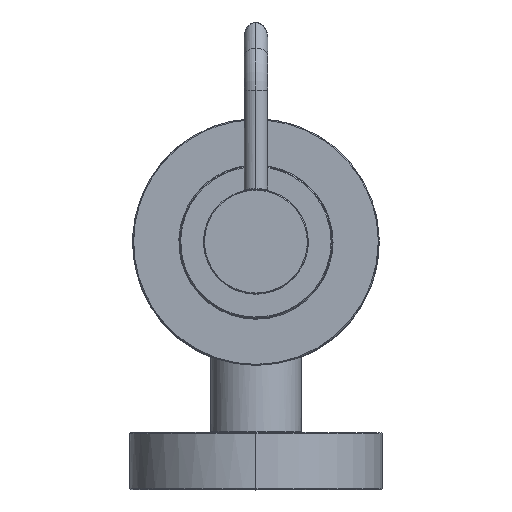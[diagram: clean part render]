
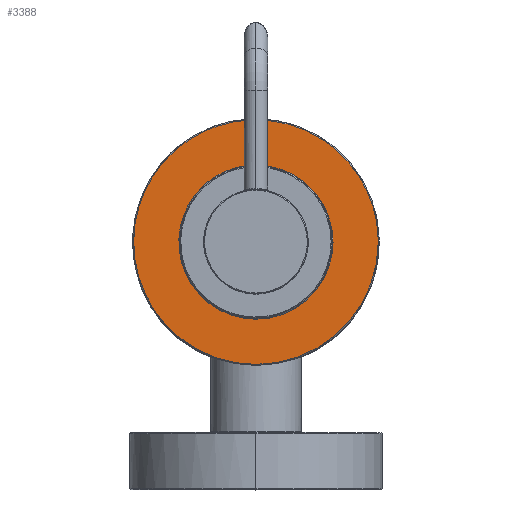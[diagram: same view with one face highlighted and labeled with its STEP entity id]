
A CAD part, top view. The second image highlights one B-rep face of the part: STEP entity #3388.
In plain terms, the highlighted planar face has unit normal (0, 0, 1).
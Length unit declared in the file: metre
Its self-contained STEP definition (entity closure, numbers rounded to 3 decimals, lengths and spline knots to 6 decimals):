
#212=EDGE_CURVE('',#213,#216,#218,.F.);
#213=VERTEX_POINT('',#214);
#214=CARTESIAN_POINT('',(0.0257,0.052,0.028));
#215=CARTESIAN_POINT('',(0.0,0.0263,0.028));
#216=VERTEX_POINT('',#217);
#217=CARTESIAN_POINT('',(0.0,0.0263,0.028));
#218=(B_SPLINE_CURVE(3,(#215,#219,#220,#221,#222,#223,#224),.UNSPECIFIED.,
  .F.,.U.)B_SPLINE_CURVE_WITH_KNOTS((4,3,4),(0.0,0.5,1.0),.UNSPECIFIED.)BOUNDED_CURVE(
  )CURVE()GEOMETRIC_REPRESENTATION_ITEM()RATIONAL_B_SPLINE_CURVE((1.0,
  0.588,0.588,1.0,0.588,
  0.588,1.0))REPRESENTATION_ITEM(''));
#219=CARTESIAN_POINT('',(-0.026899,0.0263,0.028));
#220=CARTESIAN_POINT('',(-0.037193,0.051152,0.028));
#221=CARTESIAN_POINT('',(-0.018173,0.070173,0.028));
#222=CARTESIAN_POINT('',(0.000848,0.089193,0.028)
  );
#223=CARTESIAN_POINT('',(0.0257,0.078899,0.028));
#224=CARTESIAN_POINT('',(0.0257,0.052,0.028));
#3388=ADVANCED_FACE('',(#3394,#3414),#3389,.F.);
#3389=PLANE('',#3390);
#3390=AXIS2_PLACEMENT_3D('',#3391,#3392,#3393);
#3391=CARTESIAN_POINT('',(0.0,0.052,0.028));
#3392=DIRECTION('',(0.0,0.0,-1.0));
#3393=DIRECTION('',(0.,1.0,0.0));
#3394=FACE_BOUND('',#3395,.T.);
#3395=EDGE_LOOP('',(#3396,#3407));
#3396=ORIENTED_EDGE('',*,*,#3397,.T.);
#3397=EDGE_CURVE('',#3398,#3400,#3402,.T.);
#3398=VERTEX_POINT('',#3399);
#3399=CARTESIAN_POINT('',(0.0,0.0682,0.028));
#3400=VERTEX_POINT('',#3401);
#3401=CARTESIAN_POINT('',(0.0,0.0358,0.028));
#3402=CIRCLE('',#3403,0.0162);
#3403=AXIS2_PLACEMENT_3D('',#3404,#3405,#3406);
#3404=CARTESIAN_POINT('',(0.0,0.052,0.028));
#3405=DIRECTION('',(0.0,0.0,-1.0));
#3406=DIRECTION('',(-1.0,0.0,0.0));
#3407=ORIENTED_EDGE('',*,*,#3409,.T.);
#3408=CARTESIAN_POINT('',(0.0,0.0358,0.028));
#3409=EDGE_CURVE('',#3400,#3398,#3410,.T.);
#3410=(B_SPLINE_CURVE(3,(#3408,#3411,#3412,#3413),.UNSPECIFIED.,.F.,.U.)B_SPLINE_CURVE_WITH_KNOTS(
  (4,4),(0.0,1.0),.UNSPECIFIED.)BOUNDED_CURVE()CURVE()GEOMETRIC_REPRESENTATION_ITEM(
  )RATIONAL_B_SPLINE_CURVE((1.0,0.333,0.333,1.0)
  )REPRESENTATION_ITEM(''));
#3411=CARTESIAN_POINT('',(-0.0324,0.0358,0.028));
#3412=CARTESIAN_POINT('',(-0.0324,0.0682,0.028));
#3413=CARTESIAN_POINT('',(0.0,0.0682,0.028));
#3414=FACE_OUTER_BOUND('',#3415,.T.);
#3415=EDGE_LOOP('',(#3416,#3423));
#3416=ORIENTED_EDGE('',*,*,#3417,.T.);
#3417=EDGE_CURVE('',#216,#213,#3418,.F.);
#3418=CIRCLE('',#3419,0.0257);
#3419=AXIS2_PLACEMENT_3D('',#3420,#3421,#3422);
#3420=CARTESIAN_POINT('',(0.0,0.052,0.028));
#3421=DIRECTION('',(0.0,0.0,-1.0));
#3422=DIRECTION('',(-1.0,0.0,0.0));
#3423=ORIENTED_EDGE('',*,*,#212,.T.);
